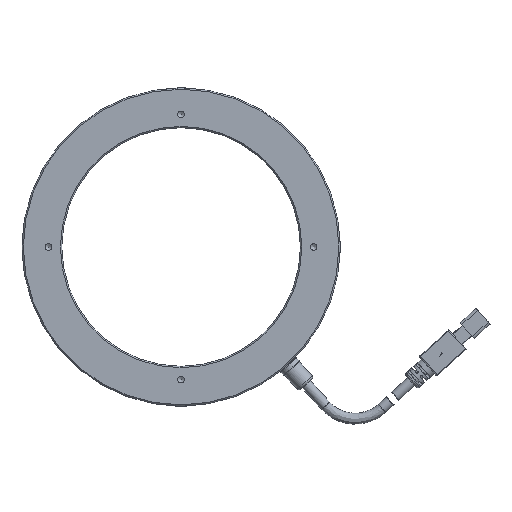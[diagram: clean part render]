
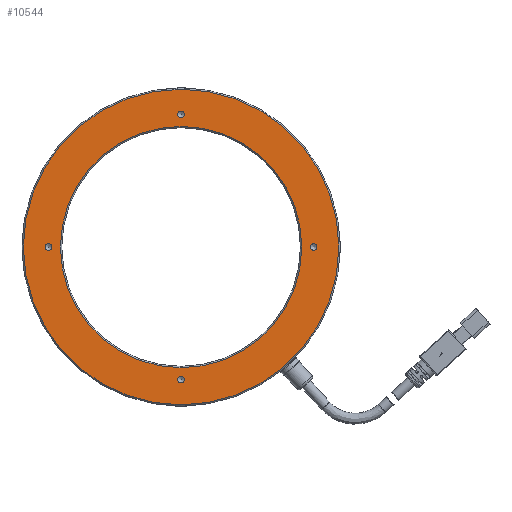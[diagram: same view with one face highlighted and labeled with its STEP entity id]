
A CAD part, front view. The second image highlights one B-rep face of the part: STEP entity #10544.
In plain terms, the highlighted planar face has unit normal (0, -1, 0).
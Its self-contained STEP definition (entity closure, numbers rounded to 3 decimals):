
#5 = CARTESIAN_POINT ( 'NONE',  ( 3.081, -31.295, -50. ) ) ;
#10 = EDGE_CURVE ( 'NONE', #9942, #9942, #4606, .T. ) ;
#45 = DIRECTION ( 'NONE',  ( 0., 0., 1. ) ) ;
#87 = ORIENTED_EDGE ( 'NONE', *, *, #450, .T. ) ;
#230 = VERTEX_POINT ( 'NONE', #646 ) ;
#433 = EDGE_LOOP ( 'NONE', ( #5589 ) ) ;
#450 = EDGE_CURVE ( 'NONE', #3800, #3800, #8265, .T. ) ;
#555 = EDGE_LOOP ( 'NONE', ( #5580 ) ) ;
#646 = CARTESIAN_POINT ( 'NONE',  ( 53.081, -31.295, 1.25 ) ) ;
#794 = DIRECTION ( 'NONE',  ( 0., -1., 0. ) ) ;
#1087 = AXIS2_PLACEMENT_3D ( 'NONE', #4538, #794, #7379 ) ;
#1338 = ORIENTED_EDGE ( 'NONE', *, *, #10, .F. ) ;
#1674 = DIRECTION ( 'NONE',  ( 0., 0., 1. ) ) ;
#1860 = CARTESIAN_POINT ( 'NONE',  ( 3.081, -31.295, -45.5 ) ) ;
#2478 = AXIS2_PLACEMENT_3D ( 'NONE', #9944, #6215, #1674 ) ;
#2589 = EDGE_CURVE ( 'NONE', #5966, #5966, #5150, .T. ) ;
#2622 = CARTESIAN_POINT ( 'NONE',  ( 3.081, -31.295, 51.25 ) ) ;
#2627 = VERTEX_POINT ( 'NONE', #12134 ) ;
#2756 = DIRECTION ( 'NONE',  ( 0., 1., 0. ) ) ;
#2931 = DIRECTION ( 'NONE',  ( 0., 1., 0. ) ) ;
#3169 = AXIS2_PLACEMENT_3D ( 'NONE', #8854, #7137, #9970 ) ;
#3448 = DIRECTION ( 'NONE',  ( 0., 1., 0. ) ) ;
#3781 = ORIENTED_EDGE ( 'NONE', *, *, #10287, .T. ) ;
#3800 = VERTEX_POINT ( 'NONE', #2622 ) ;
#3835 = CARTESIAN_POINT ( 'NONE',  ( 53.081, -31.295, 0. ) ) ;
#4340 = FACE_BOUND ( 'NONE', #555, .T. ) ;
#4388 = EDGE_CURVE ( 'NONE', #230, #230, #11450, .T. ) ;
#4538 = CARTESIAN_POINT ( 'NONE',  ( 3.081, -31.295, 0. ) ) ;
#4606 = CIRCLE ( 'NONE', #2478, 59.5 ) ;
#4648 = EDGE_LOOP ( 'NONE', ( #9450 ) ) ;
#4829 = EDGE_LOOP ( 'NONE', ( #3781 ) ) ;
#5150 = CIRCLE ( 'NONE', #9612, 1.25 ) ;
#5580 = ORIENTED_EDGE ( 'NONE', *, *, #11860, .F. ) ;
#5589 = ORIENTED_EDGE ( 'NONE', *, *, #2589, .T. ) ;
#5676 = DIRECTION ( 'NONE',  ( 0., 0., 1. ) ) ;
#5764 = FACE_BOUND ( 'NONE', #4829, .T. ) ;
#5966 = VERTEX_POINT ( 'NONE', #10870 ) ;
#6215 = DIRECTION ( 'NONE',  ( 0., 1., 0. ) ) ;
#6616 = PLANE ( 'NONE',  #8444 ) ;
#6763 = FACE_BOUND ( 'NONE', #8853, .T. ) ;
#7085 = EDGE_LOOP ( 'NONE', ( #1338 ) ) ;
#7137 = DIRECTION ( 'NONE',  ( 0., 1., 0. ) ) ;
#7379 = DIRECTION ( 'NONE',  ( 0., 0., -1. ) ) ;
#7393 = FACE_OUTER_BOUND ( 'NONE', #7085, .T. ) ;
#7800 = FACE_BOUND ( 'NONE', #4648, .T. ) ;
#8095 = CIRCLE ( 'NONE', #11099, 1.25 ) ;
#8265 = CIRCLE ( 'NONE', #3169, 1.25 ) ;
#8403 = FACE_BOUND ( 'NONE', #433, .T. ) ;
#8444 = AXIS2_PLACEMENT_3D ( 'NONE', #11291, #8577, #5676 ) ;
#8517 = DIRECTION ( 'NONE',  ( 0., 0., 1. ) ) ;
#8577 = DIRECTION ( 'NONE',  ( 0., 1., 0. ) ) ;
#8853 = EDGE_LOOP ( 'NONE', ( #87 ) ) ;
#8854 = CARTESIAN_POINT ( 'NONE',  ( 3.081, -31.295, 50. ) ) ;
#9027 = DIRECTION ( 'NONE',  ( 0., 0., 1. ) ) ;
#9450 = ORIENTED_EDGE ( 'NONE', *, *, #4388, .T. ) ;
#9612 = AXIS2_PLACEMENT_3D ( 'NONE', #5, #2756, #45 ) ;
#9942 = VERTEX_POINT ( 'NONE', #10995 ) ;
#9944 = CARTESIAN_POINT ( 'NONE',  ( 3.081, -31.295, 0. ) ) ;
#9970 = DIRECTION ( 'NONE',  ( 0., 0., 1. ) ) ;
#10205 = VERTEX_POINT ( 'NONE', #1860 ) ;
#10287 = EDGE_CURVE ( 'NONE', #2627, #2627, #8095, .T. ) ;
#10374 = CIRCLE ( 'NONE', #1087, 45.5 ) ;
#10544 = ADVANCED_FACE ( 'NONE', ( #7393, #4340, #5764, #8403, #7800, #6763 ), #6616, .F. ) ;
#10870 = CARTESIAN_POINT ( 'NONE',  ( 3.081, -31.295, -48.75 ) ) ;
#10995 = CARTESIAN_POINT ( 'NONE',  ( 3.081, -31.295, 59.5 ) ) ;
#11099 = AXIS2_PLACEMENT_3D ( 'NONE', #11894, #3448, #9027 ) ;
#11291 = CARTESIAN_POINT ( 'NONE',  ( 3.081, -31.295, 0. ) ) ;
#11450 = CIRCLE ( 'NONE', #11980, 1.25 ) ;
#11860 = EDGE_CURVE ( 'NONE', #10205, #10205, #10374, .T. ) ;
#11894 = CARTESIAN_POINT ( 'NONE',  ( -46.919, -31.295, 0. ) ) ;
#11980 = AXIS2_PLACEMENT_3D ( 'NONE', #3835, #2931, #8517 ) ;
#12134 = CARTESIAN_POINT ( 'NONE',  ( -46.919, -31.295, 1.25 ) ) ;
